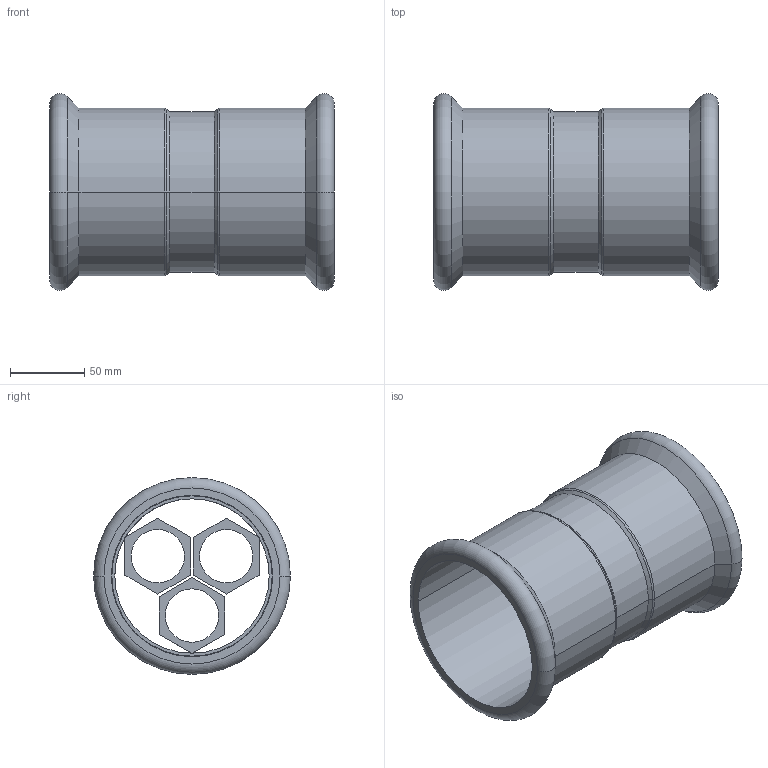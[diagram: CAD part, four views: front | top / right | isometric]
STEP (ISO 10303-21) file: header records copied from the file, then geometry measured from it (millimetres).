
FILE_DESCRIPTION(('OneSpaceDesigner STEP Export'),'2;1');
FILE_NAME('R2701 108x108.stp','2010-06-08T13:33:42',(''),(''),'OneSpace Designer STEP processor for AP214 (Solid Model)','OneSpace Modeling 15.00A 14-Mar-2007 (C) CoCreate Software GmbH','');
FILE_SCHEMA(('AUTOMOTIVE_DESIGN { 1 0 10303 214 1 1 1 1 }'));
Length unit declared in the file: millimetre
Products named in the file (2): R2701_108x108
Assembly tree (1 placements, depth 2):
  R2701_108x108
    R2701_108x108
Bounding box: 192 x 132.58 x 132.58 mm (x, y, z)
Volume: 256252.4 mm3; surface area: 161033.4 mm2
Topology: 1 solids, 1 shells, 110 faces, 276 edges, 178 vertices
Faces by surface type: plane 60, cylinder 34, cone 8, torus 8
Entity records: 2911 total; most frequent: ORIENTED_EDGE 552, CARTESIAN_POINT 474, DIRECTION 418, EDGE_CURVE 276, VERTEX_POINT 178, VECTOR 174, LINE 174, EDGE_LOOP 134
